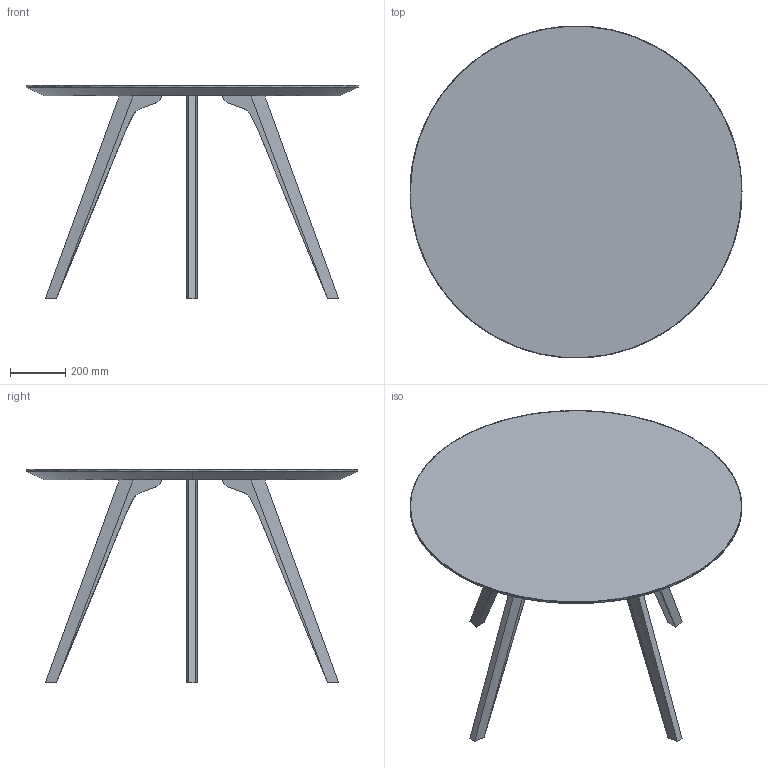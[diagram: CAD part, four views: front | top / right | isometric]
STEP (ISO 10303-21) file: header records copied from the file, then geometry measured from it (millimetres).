
FILE_DESCRIPTION(/* description */ (''),/* implementation_level */ '2;1');
FILE_NAME(/* name */ 'P-108',/* time_stamp */ '2021-10-18T22:21:26+02:00',/* author */ (''),/* organization */ (''),/* preprocessor_version */ 'ST-DEVELOPER v16.5',/* originating_system */ '',/* authorisation */ '');
FILE_SCHEMA (('AUTOMOTIVE_DESIGN'));
Length unit declared in the file: centimetre
Products named in the file (1): Document
Bounding box: 1200 x 1199.68 x 770 mm (x, y, z)
Volume: 45262576.1 mm3; surface area: 2917498.1 mm2
Topology: 5 solids, 10 shells, 53 faces, 118 edges, 79 vertices
Faces by surface type: bspline 29, plane 22, cylinder 2
Entity records: 1599 total; most frequent: CARTESIAN_POINT 780, ORIENTED_EDGE 215, EDGE_CURVE 117, B_SPLINE_CURVE_WITH_KNOTS 99, VERTEX_POINT 79, ADVANCED_FACE 53, FACE_OUTER_BOUND 53, EDGE_LOOP 53
